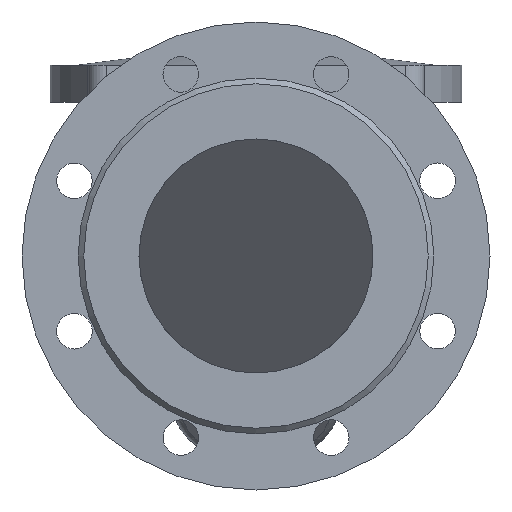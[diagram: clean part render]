
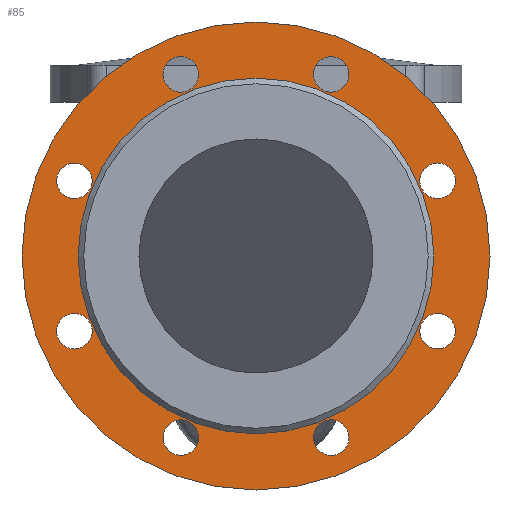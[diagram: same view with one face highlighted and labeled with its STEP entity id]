
A CAD part, front view. The second image highlights one B-rep face of the part: STEP entity #85.
In plain terms, the highlighted planar face has unit normal (0, -1, 0).
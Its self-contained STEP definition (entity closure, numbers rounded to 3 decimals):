
#85=ADVANCED_FACE('',(#714,#716,#718,#720,#722,#724,#726,#728,#730,#732),#734,.T.);
#714=FACE_BOUND('',#715,.T.);
#715=EDGE_LOOP('',(#2472));
#716=FACE_BOUND('',#717,.T.);
#717=EDGE_LOOP('',(#2473));
#718=FACE_BOUND('',#719,.T.);
#719=EDGE_LOOP('',(#2474));
#720=FACE_BOUND('',#721,.T.);
#721=EDGE_LOOP('',(#2475));
#722=FACE_BOUND('',#723,.T.);
#723=EDGE_LOOP('',(#2476));
#724=FACE_BOUND('',#725,.T.);
#725=EDGE_LOOP('',(#2477));
#726=FACE_BOUND('',#727,.T.);
#727=EDGE_LOOP('',(#2478));
#728=FACE_BOUND('',#729,.T.);
#729=EDGE_LOOP('',(#2479));
#730=FACE_BOUND('',#731,.T.);
#731=EDGE_LOOP('',(#2480));
#732=FACE_BOUND('',#733,.T.);
#733=EDGE_LOOP('',(#2481));
#734=PLANE('',#735);
#735=AXIS2_PLACEMENT_3D('',#736,#737,#738);
#736=CARTESIAN_POINT('',(0.,-162.,0.));
#737=DIRECTION('',(0.,-1.,0.));
#738=DIRECTION('',(0.,0.,1.));
#2472=ORIENTED_EDGE('',*,*,#2756,.F.);
#2473=ORIENTED_EDGE('',*,*,#2757,.T.);
#2474=ORIENTED_EDGE('',*,*,#2758,.T.);
#2475=ORIENTED_EDGE('',*,*,#2759,.T.);
#2476=ORIENTED_EDGE('',*,*,#2760,.T.);
#2477=ORIENTED_EDGE('',*,*,#2761,.T.);
#2478=ORIENTED_EDGE('',*,*,#2762,.T.);
#2479=ORIENTED_EDGE('',*,*,#2763,.T.);
#2480=ORIENTED_EDGE('',*,*,#2755,.T.);
#2481=ORIENTED_EDGE('',*,*,#2764,.T.);
#2755=EDGE_CURVE('',#2897,#2897,#2898,.T.);
#2756=EDGE_CURVE('',#2899,#2899,#2900,.T.);
#2757=EDGE_CURVE('',#2901,#2901,#2902,.F.);
#2758=EDGE_CURVE('',#2903,#2903,#2904,.F.);
#2759=EDGE_CURVE('',#2905,#2905,#2906,.F.);
#2760=EDGE_CURVE('',#2907,#2907,#2908,.F.);
#2761=EDGE_CURVE('',#2909,#2909,#2910,.F.);
#2762=EDGE_CURVE('',#2911,#2911,#2912,.F.);
#2763=EDGE_CURVE('',#2913,#2913,#2914,.F.);
#2764=EDGE_CURVE('',#2915,#2915,#2916,.F.);
#2897=VERTEX_POINT('',#3148);
#2898=CIRCLE('',#3149,95.);
#2899=VERTEX_POINT('',#3153);
#2900=CIRCLE('',#3154,125.);
#2901=VERTEX_POINT('',#3158);
#2902=CIRCLE('',#3159,9.5);
#2903=VERTEX_POINT('',#3163);
#2904=CIRCLE('',#3164,9.5);
#2905=VERTEX_POINT('',#3168);
#2906=CIRCLE('',#3169,9.5);
#2907=VERTEX_POINT('',#3173);
#2908=CIRCLE('',#3174,9.5);
#2909=VERTEX_POINT('',#3178);
#2910=CIRCLE('',#3179,9.5);
#2911=VERTEX_POINT('',#3183);
#2912=CIRCLE('',#3184,9.5);
#2913=VERTEX_POINT('',#3188);
#2914=CIRCLE('',#3189,9.5);
#2915=VERTEX_POINT('',#3193);
#2916=CIRCLE('',#3194,9.5);
#3148=CARTESIAN_POINT('',(0.,-162.,95.));
#3149=AXIS2_PLACEMENT_3D('',#3150,#3151,#3152);
#3150=CARTESIAN_POINT('',(0.,-162.,0.));
#3151=DIRECTION('',(0.,1.,0.));
#3152=DIRECTION('',(0.,0.,1.));
#3153=CARTESIAN_POINT('',(0.,-162.,125.));
#3154=AXIS2_PLACEMENT_3D('',#3155,#3156,#3157);
#3155=CARTESIAN_POINT('',(0.,-162.,0.));
#3156=DIRECTION('',(0.,1.,0.));
#3157=DIRECTION('',(0.,0.,1.));
#3158=CARTESIAN_POINT('',(46.899,-162.,90.29));
#3159=AXIS2_PLACEMENT_3D('',#3160,#3161,#3162);
#3160=CARTESIAN_POINT('',(40.182,-162.,97.007));
#3161=DIRECTION('',(0.,-1.,0.));
#3162=DIRECTION('',(0.707,0.,-0.707));
#3163=CARTESIAN_POINT('',(97.007,-162.,30.682));
#3164=AXIS2_PLACEMENT_3D('',#3165,#3166,#3167);
#3165=CARTESIAN_POINT('',(97.007,-162.,40.182));
#3166=DIRECTION('',(0.,-1.,0.));
#3167=DIRECTION('',(0.,0.,-1.));
#3168=CARTESIAN_POINT('',(90.29,-162.,-46.899));
#3169=AXIS2_PLACEMENT_3D('',#3170,#3171,#3172);
#3170=CARTESIAN_POINT('',(97.007,-162.,-40.182));
#3171=DIRECTION('',(0.,-1.,0.));
#3172=DIRECTION('',(-0.707,0.,-0.707));
#3173=CARTESIAN_POINT('',(30.682,-162.,-97.007));
#3174=AXIS2_PLACEMENT_3D('',#3175,#3176,#3177);
#3175=CARTESIAN_POINT('',(40.182,-162.,-97.007));
#3176=DIRECTION('',(0.,-1.,0.));
#3177=DIRECTION('',(-1.,0.,0.));
#3178=CARTESIAN_POINT('',(-46.899,-162.,-90.29));
#3179=AXIS2_PLACEMENT_3D('',#3180,#3181,#3182);
#3180=CARTESIAN_POINT('',(-40.182,-162.,-97.007));
#3181=DIRECTION('',(0.,-1.,0.));
#3182=DIRECTION('',(-0.707,0.,0.707));
#3183=CARTESIAN_POINT('',(-97.007,-162.,-30.682));
#3184=AXIS2_PLACEMENT_3D('',#3185,#3186,#3187);
#3185=CARTESIAN_POINT('',(-97.007,-162.,-40.182));
#3186=DIRECTION('',(0.,-1.,0.));
#3187=DIRECTION('',(0.,0.,1.));
#3188=CARTESIAN_POINT('',(-90.29,-162.,46.899));
#3189=AXIS2_PLACEMENT_3D('',#3190,#3191,#3192);
#3190=CARTESIAN_POINT('',(-97.007,-162.,40.182));
#3191=DIRECTION('',(0.,-1.,0.));
#3192=DIRECTION('',(0.707,0.,0.707));
#3193=CARTESIAN_POINT('',(-30.682,-162.,97.007));
#3194=AXIS2_PLACEMENT_3D('',#3195,#3196,#3197);
#3195=CARTESIAN_POINT('',(-40.182,-162.,97.007));
#3196=DIRECTION('',(0.,-1.,0.));
#3197=DIRECTION('',(1.,0.,0.));
